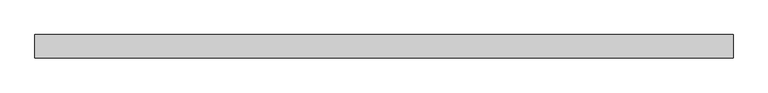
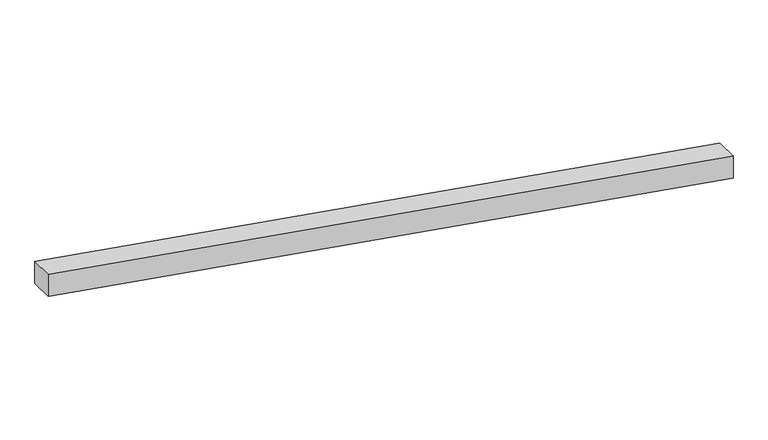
"""IFC4 building model written with IfcOpenShell, lengths in millimetres: proxy geometry, Modelos genéricos 233 : Modelos genéricos 231."""

from ifc_helpers import new_model, si_unit, frame, origin, place, context, project, spatial, polyline, outline, extrude, source, transform, mapped, element, save


def generic_models_58ecb920(model_context):
    return source(origin(), model_context, "Body", "SweptSolid", [
        extrude(outline(polyline([(3721.8097831, 9283.4472467), (3600.1445647, 9283.4472467), (3000.0, 12873.4472467), (3121.6652184, 12873.4472467), (3721.8097831, 9283.4472467)])), frame((0.0, 3913.6238165, 0.0), z_axis=(0.0, 1.0, 0.0), x_axis=(0.0, 0.0, 1.0)), (0.0, 0.0, 1.0), 120.0),
    ])


if __name__ == "__main__":
    model = new_model("IFC4")
    model_context = context("Model", 3, world=origin())
    ifc_project = project(units=[si_unit("LENGTHUNIT", "METRE", prefix="MILLI")], contexts=[model_context])
    site = spatial("IfcSite", under=ifc_project)
    building = spatial("IfcBuilding", under=site)
    placement = place(None, origin())
    generic_models_shape = generic_models_58ecb920(model_context)
    element("IfcBuildingElementProxy", 1, Name="Modelos genéricos 233 : Modelos genéricos 231", ObjectType="Modelos genéricos 233 : Modelos genéricos 231", at=placement, inside=building, context=model_context, shape_type="MappedRepresentation", body=[
        mapped(generic_models_shape, transform((0.0, 0.0, 0.0), x_axis=(1.0, 0.0, 0.0), y_axis=(0.0, 1.0, 0.0), z_axis=(0.0, 0.0, 1.0))),
    ])
    save(model, "model.ifc")
